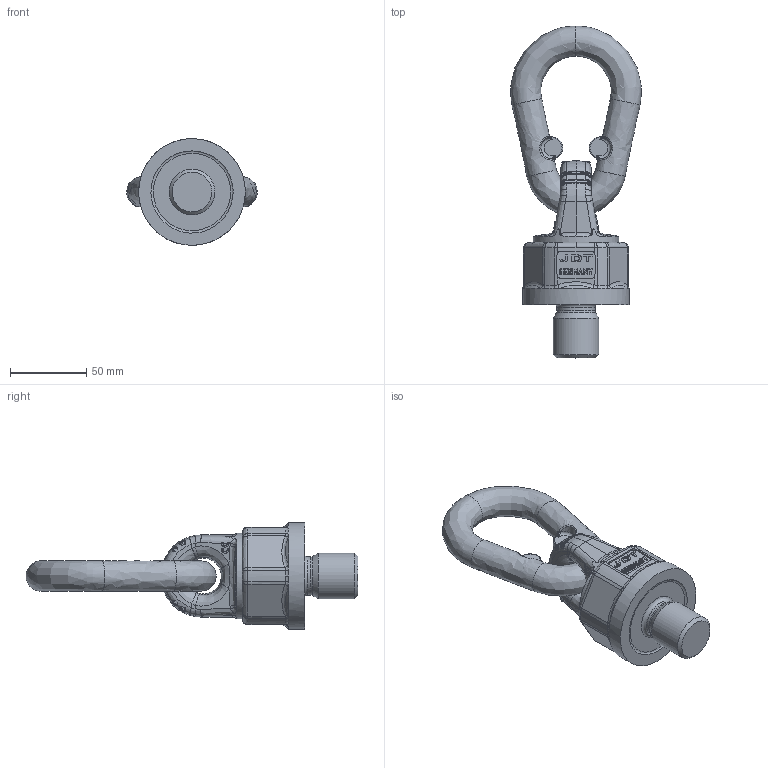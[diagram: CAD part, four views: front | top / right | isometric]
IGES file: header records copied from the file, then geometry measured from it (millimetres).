
Global section: file name: C:\IDEAS\IDEAS-DATEN\Temp\TP6.7_M30x35_senkrecht.igs; preprocessor: I-DEAS 3D IGES Translator 11; date: 20070508.110042; units: millimetre
Bounding box: 85.96 x 217.98 x 70 mm (x, y, z)
Volume: 305542 mm3; surface area: 43973.6 mm2
Topology: 2 solids, 2 shells, 696 faces, 1746 edges, 1040 vertices
Faces by surface type: bspline 696
